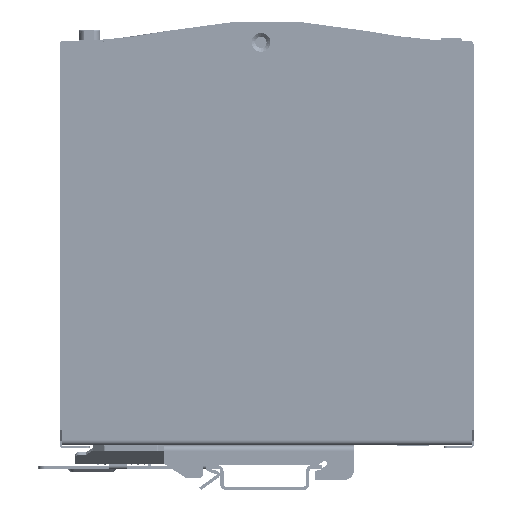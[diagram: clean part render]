
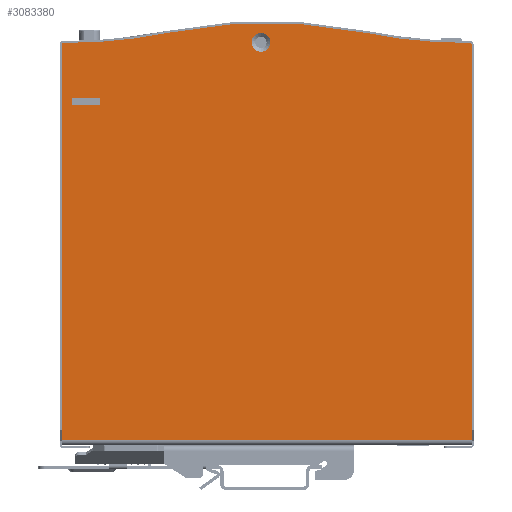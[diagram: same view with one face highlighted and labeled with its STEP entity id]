
A CAD part, front view. The second image highlights one B-rep face of the part: STEP entity #3083380.
In plain terms, the highlighted planar face has unit normal (0, -1, 0).
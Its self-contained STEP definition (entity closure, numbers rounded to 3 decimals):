
#3081670=CARTESIAN_POINT('',(95.953,13.236,74.));
#3081680=VERTEX_POINT('',#3081670);
#3081710=CARTESIAN_POINT('',(95.953,13.236,74.));
#3081720=DIRECTION('',(-1.,0.,0.));
#3081730=VECTOR('',#3081720,1.);
#3081740=LINE('',#3081710,#3081730);
#3081750=CARTESIAN_POINT('',(-23.789,13.236,
74.));
#3081760=VERTEX_POINT('',#3081750);
#3081770=EDGE_CURVE('',#3081680,#3081760,#3081740,.T.);
#3081930=CARTESIAN_POINT('',(-23.789,13.236,74.));
#3081940=CARTESIAN_POINT('',(-23.859,13.236,74.));
#3081950=CARTESIAN_POINT('',(-23.986,13.236,
73.973));
#3081960=CARTESIAN_POINT('',(-24.152,13.236,
73.863));
#3081970=CARTESIAN_POINT('',(-24.262,13.236,
73.697));
#3081980=CARTESIAN_POINT('',(-24.29,13.236,73.57
));
#3081990=CARTESIAN_POINT('',(-24.289,13.236,
73.501));
#3082000=B_SPLINE_CURVE_WITH_KNOTS('',3,(#3081930,#3081940,#3081950,
#3081960,#3081970,#3081980,#3081990),.UNSPECIFIED.,.F.,.F.,(4,1,1,1,4),(
0.,0.25,0.5,0.75,1.),.UNSPECIFIED.);
#3082010=CARTESIAN_POINT('',(-24.289,13.236,
73.495));
#3082020=VERTEX_POINT('',#3082010);
#3082030=EDGE_CURVE('',#3081760,#3082020,#3082000,.T.);
#3082270=CARTESIAN_POINT('',(-13.667,13.236,0.));
#3082280=DIRECTION('',(-0.,-1.,-0.));
#3082290=DIRECTION('',(-1.,0.,0.));
#3082300=AXIS2_PLACEMENT_3D('',#3082270,#3082280,#3082290);
#3082310=PLANE('',#3082300);
#3082320=CARTESIAN_POINT('',(-24.289,13.236,
-49.501));
#3082330=CARTESIAN_POINT('',(-24.29,13.236,
-49.57));
#3082340=CARTESIAN_POINT('',(-24.262,13.236,
-49.697));
#3082350=CARTESIAN_POINT('',(-24.152,13.236,
-49.863));
#3082360=CARTESIAN_POINT('',(-23.986,13.236,
-49.973));
#3082370=CARTESIAN_POINT('',(-23.859,13.236,-50.));
#3082380=CARTESIAN_POINT('',(-23.789,13.236,-50.));
#3082390=B_SPLINE_CURVE_WITH_KNOTS('',3,(#3082320,#3082330,#3082340,
#3082350,#3082360,#3082370,#3082380),.UNSPECIFIED.,.F.,.F.,(4,1,1,1,4),(
0.,0.25,0.5,0.75,1.),.UNSPECIFIED.);
#3082400=CARTESIAN_POINT('',(-24.289,13.236,
-49.498));
#3082410=VERTEX_POINT('',#3082400);
#3082420=CARTESIAN_POINT('',(-23.789,13.236,-50.));
#3082430=VERTEX_POINT('',#3082420);
#3082440=EDGE_CURVE('',#3082410,#3082430,#3082390,.T.);
#3082450=ORIENTED_EDGE('',*,*,#3082440,.T.);
#3082460=CARTESIAN_POINT('',(-174.282,13.236,
-48.019));
#3082470=DIRECTION('',(0.,1.,0.));
#3082480=DIRECTION('',(0.98,0.,0.2));
#3082490=AXIS2_PLACEMENT_3D('',#3082460,#3082470,#3082480);
#3082500=CIRCLE('',#3082490,150.);
#3082510=CARTESIAN_POINT('',(-27.314,13.236,
-18.01));
#3082520=VERTEX_POINT('',#3082510);
#3082530=EDGE_CURVE('',#3082520,#3082410,#3082500,.T.);
#3082540=ORIENTED_EDGE('',*,*,#3082530,.T.);
#3082550=CARTESIAN_POINT('',(119.653,13.236,12.
));
#3082560=DIRECTION('',(0.,-1.,0.));
#3082570=DIRECTION('',(-0.98,0.,0.2));
#3082580=AXIS2_PLACEMENT_3D('',#3082550,#3082560,#3082570);
#3082590=CIRCLE('',#3082580,150.);
#3082600=CARTESIAN_POINT('',(-27.314,13.236,42.01
));
#3082610=VERTEX_POINT('',#3082600);
#3082620=EDGE_CURVE('',#3082610,#3082520,#3082590,.T.);
#3082630=ORIENTED_EDGE('',*,*,#3082620,.T.);
#3082640=CARTESIAN_POINT('',(-174.282,13.236,
72.019));
#3082650=DIRECTION('',(0.,1.,0.));
#3082660=DIRECTION('',(1.,0.,0.01));
#3082670=AXIS2_PLACEMENT_3D('',#3082640,#3082650,#3082660);
#3082680=CIRCLE('',#3082670,150.);
#3082690=EDGE_CURVE('',#3082020,#3082610,#3082680,.T.);
#3082700=ORIENTED_EDGE('',*,*,#3082690,.T.);
#3082710=ORIENTED_EDGE('',*,*,#3082030,.T.);
#3082720=ORIENTED_EDGE('',*,*,#3081770,.T.);
#3082730=CARTESIAN_POINT('',(95.953,13.236,74.));
#3082740=DIRECTION('',(0.,0.,-1.));
#3082750=VECTOR('',#3082740,1.);
#3082760=LINE('',#3082730,#3082750);
#3082770=CARTESIAN_POINT('',(95.953,13.236,-50.));
#3082780=VERTEX_POINT('',#3082770);
#3082790=EDGE_CURVE('',#3081680,#3082780,#3082760,.T.);
#3082800=ORIENTED_EDGE('',*,*,#3082790,.F.);
#3082810=CARTESIAN_POINT('',(95.953,13.236,-50.));
#3082820=DIRECTION('',(-1.,0.,0.));
#3082830=VECTOR('',#3082820,1.);
#3082840=LINE('',#3082810,#3082830);
#3082850=EDGE_CURVE('',#3082780,#3082430,#3082840,.T.);
#3082860=ORIENTED_EDGE('',*,*,#3082850,.F.);
#3082870=EDGE_LOOP('',(#3082860,#3082800,#3082720,#3082710,#3082700,
#3082630,#3082540,#3082450));
#3082880=FACE_OUTER_BOUND('',#3082870,.T.);
#3082890=CARTESIAN_POINT('',(-7.497,13.236,
-38.5));
#3082900=DIRECTION('',(0.,0.,-1.));
#3082910=VECTOR('',#3082900,1.);
#3082920=LINE('',#3082890,#3082910);
#3082930=CARTESIAN_POINT('',(-7.497,13.236,
-38.5));
#3082940=VERTEX_POINT('',#3082930);
#3082950=CARTESIAN_POINT('',(-7.497,13.236,
-47.));
#3082960=VERTEX_POINT('',#3082950);
#3082970=EDGE_CURVE('',#3082940,#3082960,#3082920,.T.);
#3082980=ORIENTED_EDGE('',*,*,#3082970,.F.);
#3082990=CARTESIAN_POINT('',(-7.497,13.236,
-47.));
#3083000=DIRECTION('',(1.,0.,0.));
#3083010=VECTOR('',#3083000,1.);
#3083020=LINE('',#3082990,#3083010);
#3083030=CARTESIAN_POINT('',(-5.497,13.236,
-47.));
#3083040=VERTEX_POINT('',#3083030);
#3083050=EDGE_CURVE('',#3082960,#3083040,#3083020,.T.);
#3083060=ORIENTED_EDGE('',*,*,#3083050,.F.);
#3083070=CARTESIAN_POINT('',(-5.497,13.236,
-47.));
#3083080=DIRECTION('',(0.,0.,1.));
#3083090=VECTOR('',#3083080,1.);
#3083100=LINE('',#3083070,#3083090);
#3083110=CARTESIAN_POINT('',(-5.497,13.236,
-38.5));
#3083120=VERTEX_POINT('',#3083110);
#3083130=EDGE_CURVE('',#3083040,#3083120,#3083100,.T.);
#3083140=ORIENTED_EDGE('',*,*,#3083130,.F.);
#3083150=CARTESIAN_POINT('',(-5.497,13.236,
-38.5));
#3083160=DIRECTION('',(-1.,0.,0.));
#3083170=VECTOR('',#3083160,1.);
#3083180=LINE('',#3083150,#3083170);
#3083190=EDGE_CURVE('',#3083120,#3082940,#3083180,.T.);
#3083200=ORIENTED_EDGE('',*,*,#3083190,.F.);
#3083210=EDGE_LOOP('',(#3083200,#3083140,#3083060,#3082980));
#3083220=FACE_BOUND('',#3083210,.T.);
#3083230=CARTESIAN_POINT('',(-24.447,13.236,10.25
));
#3083240=DIRECTION('',(0.,1.,0.));
#3083250=DIRECTION('',(1.,0.,0.));
#3083260=AXIS2_PLACEMENT_3D('',#3083230,#3083240,#3083250);
#3083270=CIRCLE('',#3083260,2.85);
#3083280=CARTESIAN_POINT('',(-21.597,13.236,10.25
));
#3083290=VERTEX_POINT('',#3083280);
#3083300=CARTESIAN_POINT('',(-27.297,13.236,10.25
));
#3083310=VERTEX_POINT('',#3083300);
#3083320=EDGE_CURVE('',#3083290,#3083310,#3083270,.T.);
#3083330=ORIENTED_EDGE('',*,*,#3083320,.T.);
#3083340=EDGE_CURVE('',#3083310,#3083290,#3083270,.T.);
#3083350=ORIENTED_EDGE('',*,*,#3083340,.T.);
#3083360=EDGE_LOOP('',(#3083350,#3083330));
#3083370=FACE_BOUND('',#3083360,.T.);
#3083380=ADVANCED_FACE('',(#3082880,#3083220,#3083370),#3082310,.T.);
